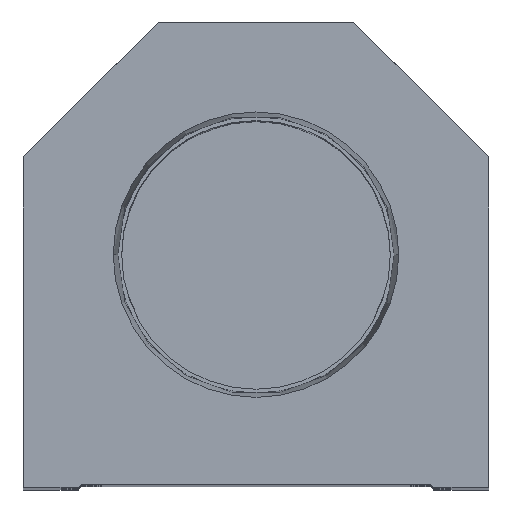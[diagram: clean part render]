
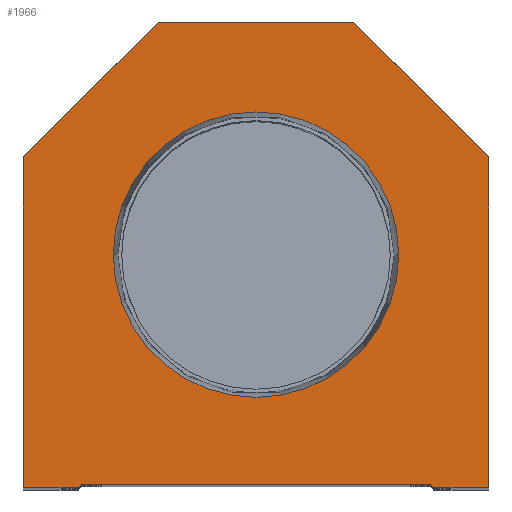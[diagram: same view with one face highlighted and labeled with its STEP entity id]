
A CAD part, top view. The second image highlights one B-rep face of the part: STEP entity #1966.
In plain terms, the highlighted planar face has unit normal (0, 0, 1).
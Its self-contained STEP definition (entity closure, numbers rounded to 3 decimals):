
#83 = DIRECTION ( 'NONE',  ( -0.707, 0.707, 0. ) ) ;
#130 = DIRECTION ( 'NONE',  ( -0.707, -0.707, 0. ) ) ;
#248 = VERTEX_POINT ( 'NONE', #19699 ) ;
#257 = VERTEX_POINT ( 'NONE', #3899 ) ;
#540 = CARTESIAN_POINT ( 'NONE',  ( 16., 76.2, 0. ) ) ;
#1169 = DIRECTION ( 'NONE',  ( 0., -1., 0. ) ) ;
#1267 = AXIS2_PLACEMENT_3D ( 'NONE', #20875, #4823, #6334 ) ;
#1318 = ORIENTED_EDGE ( 'NONE', *, *, #18293, .T. ) ;
#1717 = EDGE_CURVE ( 'NONE', #18232, #6744, #9957, .T. ) ;
#1749 = CARTESIAN_POINT ( 'NONE',  ( -28.6, 0.5, 0. ) ) ;
#1778 = ORIENTED_EDGE ( 'NONE', *, *, #9074, .T. ) ;
#1966 = ADVANCED_FACE ( 'NONE', ( #6643, #13092 ), #17212, .T. ) ;
#2130 = CARTESIAN_POINT ( 'NONE',  ( -23.374, 38.1, 0. ) ) ;
#2187 = CIRCLE ( 'NONE', #5157, 23.374 ) ;
#2246 = EDGE_CURVE ( 'NONE', #257, #16103, #8010, .T. ) ;
#2512 = DIRECTION ( 'NONE',  ( 0., 0., 1. ) ) ;
#3091 = CARTESIAN_POINT ( 'NONE',  ( 28.6, 0.5, 0. ) ) ;
#3141 = EDGE_CURVE ( 'NONE', #12367, #257, #19154, .T. ) ;
#3182 = CARTESIAN_POINT ( 'NONE',  ( 0., 0., 0. ) ) ;
#3352 = VECTOR ( 'NONE', #10300, 1000. ) ;
#3362 = LINE ( 'NONE', #1749, #10983 ) ;
#3443 = LINE ( 'NONE', #4968, #3352 ) ;
#3794 = VERTEX_POINT ( 'NONE', #20836 ) ;
#3899 = CARTESIAN_POINT ( 'NONE',  ( 38.1, 0., 0. ) ) ;
#4219 = VERTEX_POINT ( 'NONE', #14378 ) ;
#4327 = VERTEX_POINT ( 'NONE', #9822 ) ;
#4823 = DIRECTION ( 'NONE',  ( 0., 0., 1. ) ) ;
#4968 = CARTESIAN_POINT ( 'NONE',  ( -28.6, 0., 0. ) ) ;
#5157 = AXIS2_PLACEMENT_3D ( 'NONE', #5283, #21466, #16301 ) ;
#5283 = CARTESIAN_POINT ( 'NONE',  ( 0., 38.1, 0. ) ) ;
#5529 = ORIENTED_EDGE ( 'NONE', *, *, #7991, .F. ) ;
#6334 = DIRECTION ( 'NONE',  ( 1., 0., 0. ) ) ;
#6598 = ORIENTED_EDGE ( 'NONE', *, *, #20719, .T. ) ;
#6643 = FACE_BOUND ( 'NONE', #8596, .T. ) ;
#6744 = VERTEX_POINT ( 'NONE', #7743 ) ;
#7472 = VECTOR ( 'NONE', #18825, 1000. ) ;
#7603 = DIRECTION ( 'NONE',  ( -1., 0., 0. ) ) ;
#7743 = CARTESIAN_POINT ( 'NONE',  ( -38.1, 0., 0. ) ) ;
#7991 = EDGE_CURVE ( 'NONE', #22045, #4327, #2187, .T. ) ;
#8010 = LINE ( 'NONE', #22229, #7472 ) ;
#8267 = CIRCLE ( 'NONE', #1267, 23.374 ) ;
#8586 = VECTOR ( 'NONE', #7603, 1000. ) ;
#8596 = EDGE_LOOP ( 'NONE', ( #9783, #5529 ) ) ;
#8888 = LINE ( 'NONE', #15961, #15618 ) ;
#8959 = CARTESIAN_POINT ( 'NONE',  ( -14.55, 14.55, 0. ) ) ;
#9030 = ORIENTED_EDGE ( 'NONE', *, *, #20586, .T. ) ;
#9074 = EDGE_CURVE ( 'NONE', #6744, #248, #3443, .T. ) ;
#9189 = CARTESIAN_POINT ( 'NONE',  ( 16., 76.2, 0. ) ) ;
#9536 = VECTOR ( 'NONE', #130, 1000. ) ;
#9783 = ORIENTED_EDGE ( 'NONE', *, *, #12889, .F. ) ;
#9822 = CARTESIAN_POINT ( 'NONE',  ( 23.374, 38.1, 0. ) ) ;
#9957 = LINE ( 'NONE', #17037, #18202 ) ;
#10099 = ORIENTED_EDGE ( 'NONE', *, *, #17575, .T. ) ;
#10124 = ORIENTED_EDGE ( 'NONE', *, *, #2246, .T. ) ;
#10154 = VERTEX_POINT ( 'NONE', #9189 ) ;
#10300 = DIRECTION ( 'NONE',  ( 1., 0., 0. ) ) ;
#10464 = DIRECTION ( 'NONE',  ( 0.707, -0.707, 0. ) ) ;
#10983 = VECTOR ( 'NONE', #13691, 1000. ) ;
#11821 = CARTESIAN_POINT ( 'NONE',  ( -38.1, 54.1, 0. ) ) ;
#12196 = LINE ( 'NONE', #21178, #17917 ) ;
#12367 = VERTEX_POINT ( 'NONE', #20843 ) ;
#12889 = EDGE_CURVE ( 'NONE', #4327, #22045, #8267, .T. ) ;
#12896 = VERTEX_POINT ( 'NONE', #3091 ) ;
#13092 = FACE_OUTER_BOUND ( 'NONE', #13205, .T. ) ;
#13112 = CARTESIAN_POINT ( 'NONE',  ( 38.1, 54.1, 0. ) ) ;
#13205 = EDGE_LOOP ( 'NONE', ( #1778, #6598, #20252, #9030, #19730, #10124, #10099, #1318, #14071, #19249 ) ) ;
#13691 = DIRECTION ( 'NONE',  ( 1., 0., 0. ) ) ;
#14071 = ORIENTED_EDGE ( 'NONE', *, *, #16004, .T. ) ;
#14378 = CARTESIAN_POINT ( 'NONE',  ( -28.6, 0.5, 0. ) ) ;
#15139 = EDGE_CURVE ( 'NONE', #4219, #12896, #3362, .T. ) ;
#15618 = VECTOR ( 'NONE', #83, 1000. ) ;
#15662 = DIRECTION ( 'NONE',  ( 1., 0., 0. ) ) ;
#15961 = CARTESIAN_POINT ( 'NONE',  ( 38.1, 54.1, 0. ) ) ;
#16004 = EDGE_CURVE ( 'NONE', #3794, #18232, #17998, .T. ) ;
#16103 = VERTEX_POINT ( 'NONE', #13112 ) ;
#16301 = DIRECTION ( 'NONE',  ( 1., 0., 0. ) ) ;
#16648 = LINE ( 'NONE', #540, #8586 ) ;
#17037 = CARTESIAN_POINT ( 'NONE',  ( -38.1, 0., 0. ) ) ;
#17212 = PLANE ( 'NONE',  #18965 ) ;
#17575 = EDGE_CURVE ( 'NONE', #16103, #10154, #8888, .T. ) ;
#17866 = CARTESIAN_POINT ( 'NONE',  ( 28.6, 0., 0. ) ) ;
#17917 = VECTOR ( 'NONE', #10464, 1000. ) ;
#17998 = LINE ( 'NONE', #18224, #9536 ) ;
#18202 = VECTOR ( 'NONE', #1169, 1000. ) ;
#18224 = CARTESIAN_POINT ( 'NONE',  ( -38.1, 54.1, 0. ) ) ;
#18232 = VERTEX_POINT ( 'NONE', #11821 ) ;
#18293 = EDGE_CURVE ( 'NONE', #10154, #3794, #16648, .T. ) ;
#18825 = DIRECTION ( 'NONE',  ( 0., 1., 0. ) ) ;
#18965 = AXIS2_PLACEMENT_3D ( 'NONE', #3182, #2512, #20972 ) ;
#19154 = LINE ( 'NONE', #17866, #21215 ) ;
#19249 = ORIENTED_EDGE ( 'NONE', *, *, #1717, .T. ) ;
#19699 = CARTESIAN_POINT ( 'NONE',  ( -29.1, 0., 0. ) ) ;
#19730 = ORIENTED_EDGE ( 'NONE', *, *, #3141, .T. ) ;
#19882 = LINE ( 'NONE', #8959, #20537 ) ;
#20252 = ORIENTED_EDGE ( 'NONE', *, *, #15139, .T. ) ;
#20537 = VECTOR ( 'NONE', #21423, 1000. ) ;
#20586 = EDGE_CURVE ( 'NONE', #12896, #12367, #12196, .T. ) ;
#20719 = EDGE_CURVE ( 'NONE', #248, #4219, #19882, .T. ) ;
#20836 = CARTESIAN_POINT ( 'NONE',  ( -16., 76.2, 0. ) ) ;
#20843 = CARTESIAN_POINT ( 'NONE',  ( 29.1, 0., 0. ) ) ;
#20875 = CARTESIAN_POINT ( 'NONE',  ( 0., 38.1, 0. ) ) ;
#20972 = DIRECTION ( 'NONE',  ( 1., 0., 0. ) ) ;
#21178 = CARTESIAN_POINT ( 'NONE',  ( 14.55, 14.55, 0. ) ) ;
#21215 = VECTOR ( 'NONE', #15662, 1000. ) ;
#21423 = DIRECTION ( 'NONE',  ( 0.707, 0.707, 0. ) ) ;
#21466 = DIRECTION ( 'NONE',  ( 0., 0., 1. ) ) ;
#22045 = VERTEX_POINT ( 'NONE', #2130 ) ;
#22229 = CARTESIAN_POINT ( 'NONE',  ( 38.1, 0., 0. ) ) ;
